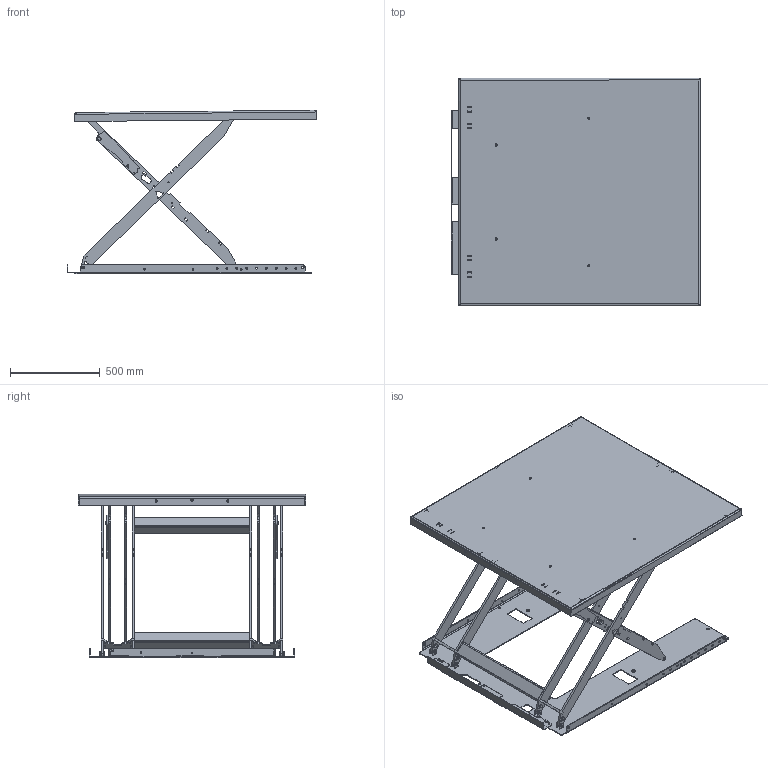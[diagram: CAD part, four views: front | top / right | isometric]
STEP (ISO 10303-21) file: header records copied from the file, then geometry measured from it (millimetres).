
FILE_DESCRIPTION(/* description */ ('TCL 1000GB 1350x1270'),/* implementation_level */ '2;1');
FILE_NAME(/* name */ 'C:\Autodesk_VaultWork\Ritningar\601224_Raised.stp',/* time_stamp */ '2019-04-05T08:58:47+02:00',/* author */ ('johso'),/* organization */ (''),/* preprocessor_version */ 'ST-DEVELOPER v16.5',/* originating_system */ 'Autodesk Inventor 2017',/* authorisation */ '');
FILE_SCHEMA (('AUTOMOTIVE_DESIGN { 1 0 10303 214 3 1 1 }'));
Length unit declared in the file: millimetre
Products named in the file (28): 601224.tmp; 602932; 602933; 80476; 601156; 601162; ISO 4019 - 80x60x4 - 828; 600513; 36570-1; 600502; 36571; 36572; 600950; 36159; 36546; 45254-10; 84409; 83208; 84157; 85797; 600493-161; 601158; 602066; 44572; 45087; ISO 4016 - M6 x 35; 45266; 612450
Assembly tree (68 placements, depth 5):
  601224.tmp
    602932
      602933
      45266  x8
      80476  x4
    601156
      601162
        ISO 4019 - 80x60x4 - 828  x2
        600513  x2
          36570-1
          600502
      36571  x2
        36572
      600950  x2
      36159  x2
      36546  x2
      45254-10  x2
      84409  x2
      83208  x2
      84157  x2
      600493-161  x2
      85797  x4
    601158
      602066
      44572  x2
      45087  x2
      ISO 4016 - M6 x 35  x6
      45266  x8
    612450
Bounding box: 1391.05 x 1270 x 912.97 mm (x, y, z)
Volume: 23409918.2 mm3; surface area: 8297629.6 mm2
Topology: 59 solids, 59 shells, 2762 faces, 7661 edges, 5047 vertices
Faces by surface type: cylinder 1438, plane 1080, cone 166, torus 38, bspline 36, sphere 4
Full cylindrical faces by diameter (mm): 5 x8, 5.5 x6, 6 x46, 7 x3, 7.4 x12, 8 x2, 8.376 x4, 8.5 x16, 8.7 x4, 9 x6, 10 x2, 10.5 x2, 11 x2, 11.63 x2, 12 x4, 12.5 x6, 13 x14, 14.63 x2, 16 x6, 17.2 x2, 22 x2, 22.1 x4
Entity records: 43200 total; most frequent: CARTESIAN_POINT 8109, DIRECTION 7438, ORIENTED_EDGE 6960, EDGE_CURVE 3480, AXIS2_PLACEMENT_3D 2717, VERTEX_POINT 2360, LINE 2004, VECTOR 2004
